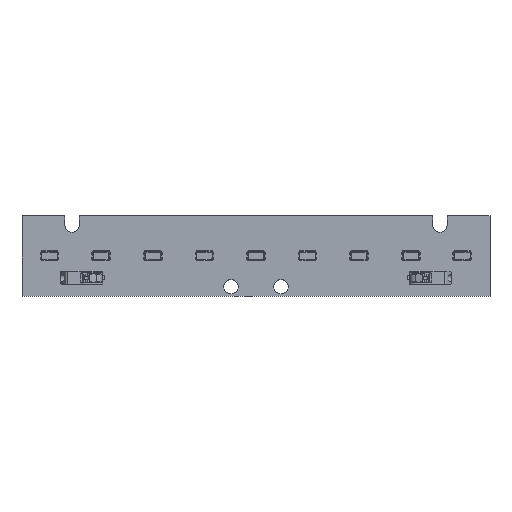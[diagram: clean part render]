
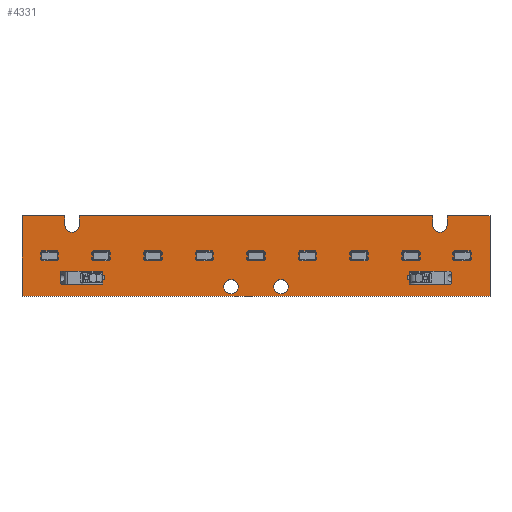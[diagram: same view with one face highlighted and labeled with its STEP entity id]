
A CAD part, top view. The second image highlights one B-rep face of the part: STEP entity #4331.
In plain terms, the highlighted planar face has unit normal (0, 0, 1).
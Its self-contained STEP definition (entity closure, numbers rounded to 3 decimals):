
#51 = VECTOR ( 'NONE', #1596, 1000. ) ;
#61 = EDGE_CURVE ( 'NONE', #1257, #4368, #3617, .T. ) ;
#99 = ORIENTED_EDGE ( 'NONE', *, *, #570, .T. ) ;
#111 = VECTOR ( 'NONE', #3477, 1000. ) ;
#141 = PLANE ( 'NONE',  #4684 ) ;
#172 = EDGE_CURVE ( 'NONE', #4368, #2330, #1918, .T. ) ;
#207 = CARTESIAN_POINT ( 'NONE',  ( 64.65, 2.8, 1.6 ) ) ;
#226 = EDGE_CURVE ( 'NONE', #1926, #1099, #2963, .T. ) ;
#242 = ORIENTED_EDGE ( 'NONE', *, *, #2764, .F. ) ;
#246 = VECTOR ( 'NONE', #3154, 1000. ) ;
#279 = ORIENTED_EDGE ( 'NONE', *, *, #226, .F. ) ;
#296 = CIRCLE ( 'NONE', #6029, 2.15 ) ;
#330 = VECTOR ( 'NONE', #5793, 1000. ) ;
#466 = DIRECTION ( 'NONE',  ( 0., 1., 0. ) ) ;
#497 = CIRCLE ( 'NONE', #2858, 2.15 ) ;
#570 = EDGE_CURVE ( 'NONE', #3215, #788, #857, .T. ) ;
#592 = VERTEX_POINT ( 'NONE', #5839 ) ;
#606 = EDGE_CURVE ( 'NONE', #2745, #3116, #4345, .T. ) ;
#609 = CARTESIAN_POINT ( 'NONE',  ( 0., 24., 1.6 ) ) ;
#615 = DIRECTION ( 'NONE',  ( -1., 0., 0. ) ) ;
#622 = AXIS2_PLACEMENT_3D ( 'NONE', #4262, #1461, #995 ) ;
#627 = CARTESIAN_POINT ( 'NONE',  ( 0., 24., 1.6 ) ) ;
#696 = EDGE_CURVE ( 'NONE', #788, #4007, #1543, .T. ) ;
#760 = CARTESIAN_POINT ( 'NONE',  ( 77.5, 2.8, 1.6 ) ) ;
#784 = DIRECTION ( 'NONE',  ( 0., 0., 1. ) ) ;
#788 = VERTEX_POINT ( 'NONE', #1473 ) ;
#857 = LINE ( 'NONE', #2048, #2271 ) ;
#859 = ORIENTED_EDGE ( 'NONE', *, *, #4549, .F. ) ;
#934 = EDGE_CURVE ( 'NONE', #4554, #2330, #5374, .T. ) ;
#995 = DIRECTION ( 'NONE',  ( 1., 0., 0. ) ) ;
#1018 = CARTESIAN_POINT ( 'NONE',  ( 125., 21.2, 1.6 ) ) ;
#1075 = CARTESIAN_POINT ( 'NONE',  ( 60.35, 2.8, 1.6 ) ) ;
#1076 = AXIS2_PLACEMENT_3D ( 'NONE', #760, #4081, #1250 ) ;
#1099 = VERTEX_POINT ( 'NONE', #207 ) ;
#1170 = LINE ( 'NONE', #627, #51 ) ;
#1209 = ORIENTED_EDGE ( 'NONE', *, *, #172, .F. ) ;
#1223 = EDGE_CURVE ( 'NONE', #2995, #1257, #5143, .T. ) ;
#1250 = DIRECTION ( 'NONE',  ( 1., 0., 0. ) ) ;
#1257 = VERTEX_POINT ( 'NONE', #3179 ) ;
#1307 = CARTESIAN_POINT ( 'NONE',  ( 17.15, 21.2, 1.6 ) ) ;
#1444 = DIRECTION ( 'NONE',  ( 0., -1., 0. ) ) ;
#1454 = ORIENTED_EDGE ( 'NONE', *, *, #2917, .T. ) ;
#1461 = DIRECTION ( 'NONE',  ( 0., 0., 1. ) ) ;
#1462 = VECTOR ( 'NONE', #466, 1000. ) ;
#1473 = CARTESIAN_POINT ( 'NONE',  ( 0., 0., 1.6 ) ) ;
#1502 = DIRECTION ( 'NONE',  ( 0., 0., 1. ) ) ;
#1543 = LINE ( 'NONE', #5432, #111 ) ;
#1588 = DIRECTION ( 'NONE',  ( 0., 1., 0. ) ) ;
#1596 = DIRECTION ( 'NONE',  ( -1., 0., 0. ) ) ;
#1611 = LINE ( 'NONE', #4717, #1462 ) ;
#1721 = AXIS2_PLACEMENT_3D ( 'NONE', #1018, #4800, #1972 ) ;
#1747 = CARTESIAN_POINT ( 'NONE',  ( 122.85, 24., 1.6 ) ) ;
#1753 = EDGE_CURVE ( 'NONE', #4007, #4554, #1611, .T. ) ;
#1827 = VECTOR ( 'NONE', #1444, 1000. ) ;
#1840 = EDGE_LOOP ( 'NONE', ( #5825, #1209, #3397, #5019, #1454, #2168, #3621, #2882, #2792, #99, #2377, #5834 ) ) ;
#1855 = VECTOR ( 'NONE', #1588, 1000. ) ;
#1911 = CARTESIAN_POINT ( 'NONE',  ( 140., 24., 1.6 ) ) ;
#1918 = LINE ( 'NONE', #5421, #1855 ) ;
#1922 = CARTESIAN_POINT ( 'NONE',  ( 12.85, 24., 1.6 ) ) ;
#1926 = VERTEX_POINT ( 'NONE', #1075 ) ;
#1972 = DIRECTION ( 'NONE',  ( 1., 0., 0. ) ) ;
#2009 = CARTESIAN_POINT ( 'NONE',  ( 17.15, 34.983, 1.6 ) ) ;
#2048 = CARTESIAN_POINT ( 'NONE',  ( 0., 0., 1.6 ) ) ;
#2121 = CARTESIAN_POINT ( 'NONE',  ( 127.15, 24., 1.6 ) ) ;
#2168 = ORIENTED_EDGE ( 'NONE', *, *, #3639, .F. ) ;
#2271 = VECTOR ( 'NONE', #5339, 1000. ) ;
#2317 = FACE_BOUND ( 'NONE', #5218, .T. ) ;
#2330 = VERTEX_POINT ( 'NONE', #2121 ) ;
#2377 = ORIENTED_EDGE ( 'NONE', *, *, #696, .T. ) ;
#2396 = CARTESIAN_POINT ( 'NONE',  ( 62.5, 2.8, 1.6 ) ) ;
#2417 = EDGE_CURVE ( 'NONE', #2894, #5148, #3681, .T. ) ;
#2506 = DIRECTION ( 'NONE',  ( -1., 0., 0. ) ) ;
#2533 = ORIENTED_EDGE ( 'NONE', *, *, #2417, .F. ) ;
#2542 = CIRCLE ( 'NONE', #4242, 2.15 ) ;
#2585 = LINE ( 'NONE', #609, #6059 ) ;
#2692 = CARTESIAN_POINT ( 'NONE',  ( 122.85, 36.131, 1.6 ) ) ;
#2745 = VERTEX_POINT ( 'NONE', #1922 ) ;
#2764 = EDGE_CURVE ( 'NONE', #5148, #2894, #497, .T. ) ;
#2792 = ORIENTED_EDGE ( 'NONE', *, *, #2886, .T. ) ;
#2858 = AXIS2_PLACEMENT_3D ( 'NONE', #4323, #1502, #4793 ) ;
#2860 = DIRECTION ( 'NONE',  ( 1., 0., 0. ) ) ;
#2882 = ORIENTED_EDGE ( 'NONE', *, *, #606, .F. ) ;
#2886 = EDGE_CURVE ( 'NONE', #2745, #3215, #2585, .T. ) ;
#2894 = VERTEX_POINT ( 'NONE', #4870 ) ;
#2917 = EDGE_CURVE ( 'NONE', #2995, #592, #1170, .T. ) ;
#2963 = CIRCLE ( 'NONE', #622, 2.15 ) ;
#2995 = VERTEX_POINT ( 'NONE', #1747 ) ;
#3116 = VERTEX_POINT ( 'NONE', #4987 ) ;
#3154 = DIRECTION ( 'NONE',  ( 0., -1., 0. ) ) ;
#3179 = CARTESIAN_POINT ( 'NONE',  ( 122.85, 21.2, 1.6 ) ) ;
#3215 = VERTEX_POINT ( 'NONE', #6001 ) ;
#3277 = VERTEX_POINT ( 'NONE', #1307 ) ;
#3397 = ORIENTED_EDGE ( 'NONE', *, *, #61, .F. ) ;
#3416 = CARTESIAN_POINT ( 'NONE',  ( 0., 0., 1.6 ) ) ;
#3421 = CARTESIAN_POINT ( 'NONE',  ( 0., 24., 1.6 ) ) ;
#3451 = DIRECTION ( 'NONE',  ( 0., 0., -1. ) ) ;
#3477 = DIRECTION ( 'NONE',  ( 1., 0., 0. ) ) ;
#3617 = CIRCLE ( 'NONE', #1721, 2.15 ) ;
#3619 = CARTESIAN_POINT ( 'NONE',  ( 15., 21.2, 1.6 ) ) ;
#3621 = ORIENTED_EDGE ( 'NONE', *, *, #4975, .F. ) ;
#3639 = EDGE_CURVE ( 'NONE', #3277, #592, #5975, .T. ) ;
#3681 = CIRCLE ( 'NONE', #1076, 2.15 ) ;
#3709 = FACE_OUTER_BOUND ( 'NONE', #1840, .T. ) ;
#3975 = CARTESIAN_POINT ( 'NONE',  ( 127.15, 21.2, 1.6 ) ) ;
#4007 = VERTEX_POINT ( 'NONE', #4189 ) ;
#4081 = DIRECTION ( 'NONE',  ( 0., 0., 1. ) ) ;
#4103 = DIRECTION ( 'NONE',  ( 1., 0., 0. ) ) ;
#4189 = CARTESIAN_POINT ( 'NONE',  ( 140., 0., 1.6 ) ) ;
#4242 = AXIS2_PLACEMENT_3D ( 'NONE', #2396, #5691, #2860 ) ;
#4262 = CARTESIAN_POINT ( 'NONE',  ( 62.5, 2.8, 1.6 ) ) ;
#4323 = CARTESIAN_POINT ( 'NONE',  ( 77.5, 2.8, 1.6 ) ) ;
#4331 = ADVANCED_FACE ( 'NONE', ( #2317, #6094, #3709 ), #141, .F. ) ;
#4345 = LINE ( 'NONE', #5372, #1827 ) ;
#4368 = VERTEX_POINT ( 'NONE', #3975 ) ;
#4549 = EDGE_CURVE ( 'NONE', #1099, #1926, #2542, .T. ) ;
#4554 = VERTEX_POINT ( 'NONE', #1911 ) ;
#4684 = AXIS2_PLACEMENT_3D ( 'NONE', #3416, #3451, #615 ) ;
#4714 = VECTOR ( 'NONE', #4868, 1000. ) ;
#4717 = CARTESIAN_POINT ( 'NONE',  ( 140., 0., 1.6 ) ) ;
#4793 = DIRECTION ( 'NONE',  ( 1., 0., 0. ) ) ;
#4800 = DIRECTION ( 'NONE',  ( 0., 0., 1. ) ) ;
#4868 = DIRECTION ( 'NONE',  ( 0., 1., 0. ) ) ;
#4870 = CARTESIAN_POINT ( 'NONE',  ( 75.35, 2.8, 1.6 ) ) ;
#4975 = EDGE_CURVE ( 'NONE', #3116, #3277, #296, .T. ) ;
#4987 = CARTESIAN_POINT ( 'NONE',  ( 12.85, 21.2, 1.6 ) ) ;
#5019 = ORIENTED_EDGE ( 'NONE', *, *, #1223, .F. ) ;
#5143 = LINE ( 'NONE', #2692, #246 ) ;
#5148 = VERTEX_POINT ( 'NONE', #5629 ) ;
#5218 = EDGE_LOOP ( 'NONE', ( #242, #2533 ) ) ;
#5339 = DIRECTION ( 'NONE',  ( 0., -1., 0. ) ) ;
#5372 = CARTESIAN_POINT ( 'NONE',  ( 12.85, 34.983, 1.6 ) ) ;
#5374 = LINE ( 'NONE', #3421, #330 ) ;
#5421 = CARTESIAN_POINT ( 'NONE',  ( 127.15, 36.131, 1.6 ) ) ;
#5432 = CARTESIAN_POINT ( 'NONE',  ( 0., 0., 1.6 ) ) ;
#5629 = CARTESIAN_POINT ( 'NONE',  ( 79.65, 2.8, 1.6 ) ) ;
#5691 = DIRECTION ( 'NONE',  ( 0., 0., 1. ) ) ;
#5793 = DIRECTION ( 'NONE',  ( -1., 0., 0. ) ) ;
#5825 = ORIENTED_EDGE ( 'NONE', *, *, #934, .T. ) ;
#5834 = ORIENTED_EDGE ( 'NONE', *, *, #1753, .T. ) ;
#5839 = CARTESIAN_POINT ( 'NONE',  ( 17.15, 24., 1.6 ) ) ;
#5918 = EDGE_LOOP ( 'NONE', ( #859, #279 ) ) ;
#5975 = LINE ( 'NONE', #2009, #4714 ) ;
#6001 = CARTESIAN_POINT ( 'NONE',  ( 0., 24., 1.6 ) ) ;
#6029 = AXIS2_PLACEMENT_3D ( 'NONE', #3619, #784, #4103 ) ;
#6059 = VECTOR ( 'NONE', #2506, 1000. ) ;
#6094 = FACE_BOUND ( 'NONE', #5918, .T. ) ;
